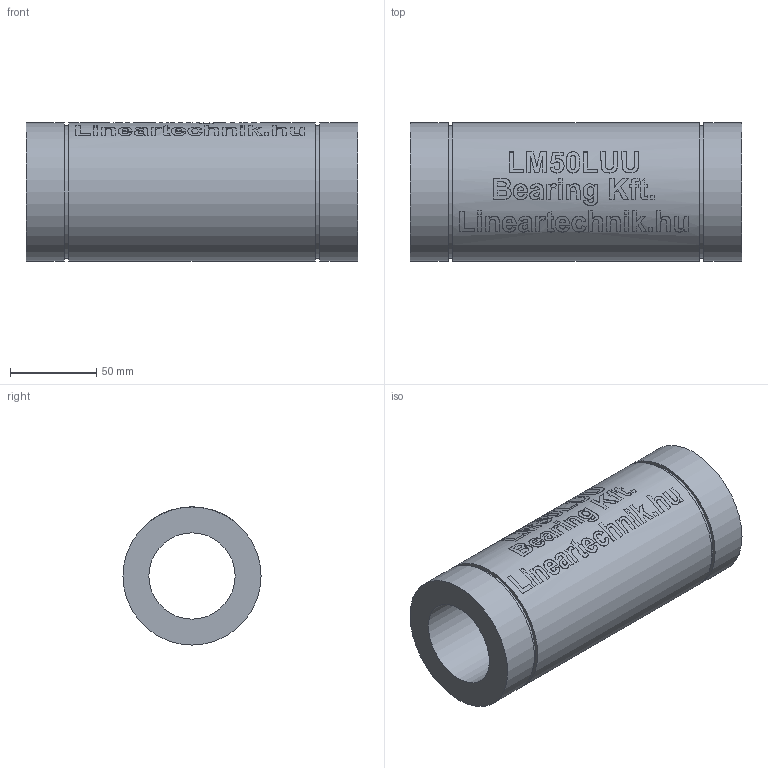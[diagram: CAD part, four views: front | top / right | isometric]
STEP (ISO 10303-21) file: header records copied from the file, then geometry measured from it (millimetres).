
FILE_DESCRIPTION(/* description */ (''),/* implementation_level */ '2;1');
FILE_NAME(/* name */ 'LM50LUU',/* time_stamp */ '2019-05-16T09:39:06+02:00',/* author */ ('VĂ©gh MĂˇtĂ©'),/* organization */ ('Bearing Kft'),/* preprocessor_version */ 'ST-DEVELOPER v16.7',/* originating_system */ 'DEX',/* authorisation */ $);
FILE_SCHEMA (('AUTOMOTIVE_DESIGN {1 0 10303 214 3 1 1}'));
Length unit declared in the file: millimetre
Products named in the file (1): LM50LUU
Bounding box: 192 x 80 x 80 mm (x, y, z)
Volume: 585698.9 mm3; surface area: 86364.4 mm2
Topology: 1 solids, 1 shells, 310 faces, 806 edges, 538 vertices
Faces by surface type: plane 160, bspline 96, cylinder 54
Full cylindrical faces by diameter (mm): 50 x1, 76.5 x2, 80 x3
Entity records: 27750 total; most frequent: CARTESIAN_POINT 20909, ORIENTED_EDGE 1518, DIRECTION 1131, EDGE_CURVE 759, VERTEX_POINT 512, LINE 417, VECTOR 417, EDGE_LOOP 369
